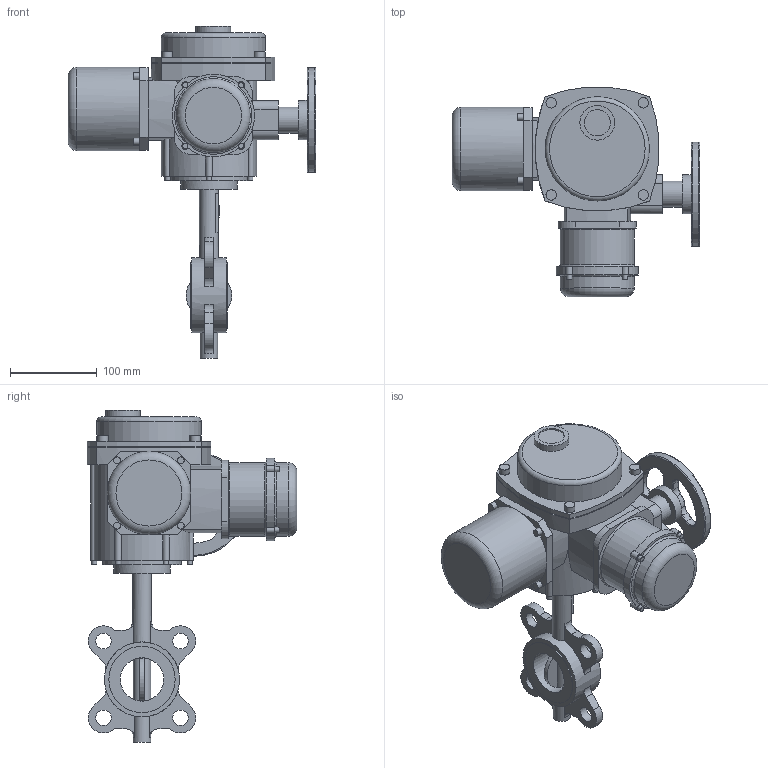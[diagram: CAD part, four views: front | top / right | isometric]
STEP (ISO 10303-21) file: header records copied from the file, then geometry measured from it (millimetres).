
FILE_DESCRIPTION(('STEP AP203'), '1');
FILE_NAME('青蜮铕 017W.Y_DN50_QT.Z 10', '', ('UNSPECIFIED'), ('UNSPECIFIED'), 'ASCON STEP Converter 1.6', 'ASCON Math Kernel', '');
FILE_SCHEMA(('CONFIG_CONTROL_DESIGN'));
Length unit declared in the file: millimetre
Bounding box: 285 x 240.97 x 382 mm (x, y, z)
Volume: 3843300.9 mm3; surface area: 322591.2 mm2
Topology: 1 solids, 1 shells, 338 faces, 813 edges, 512 vertices
Faces by surface type: cylinder 151, plane 135, torus 40, cone 12
Full cylindrical faces by diameter (mm): 4.917 x4, 6 x10, 6.647 x4, 8 x8, 12 x4, 12.386 x1, 12.6 x1, 18 x4, 20 x2, 22 x1, 30 x2, 35 x1, 40 x1, 45 x1, 50 x1, 55 x1, 65 x1, 76.3 x2, 85 x2, 86.3 x1, 90 x1, 96 x1, 120 x2
Entity records: 14476 total; most frequent: CARTESIAN_POINT 3896, DIRECTION 1776, ORIENTED_EDGE 1454, AXIS2_PLACEMENT_3D 756, EDGE_CURVE 727, VERTEX_POINT 503, EDGE_LOOP 477, CIRCLE 417
